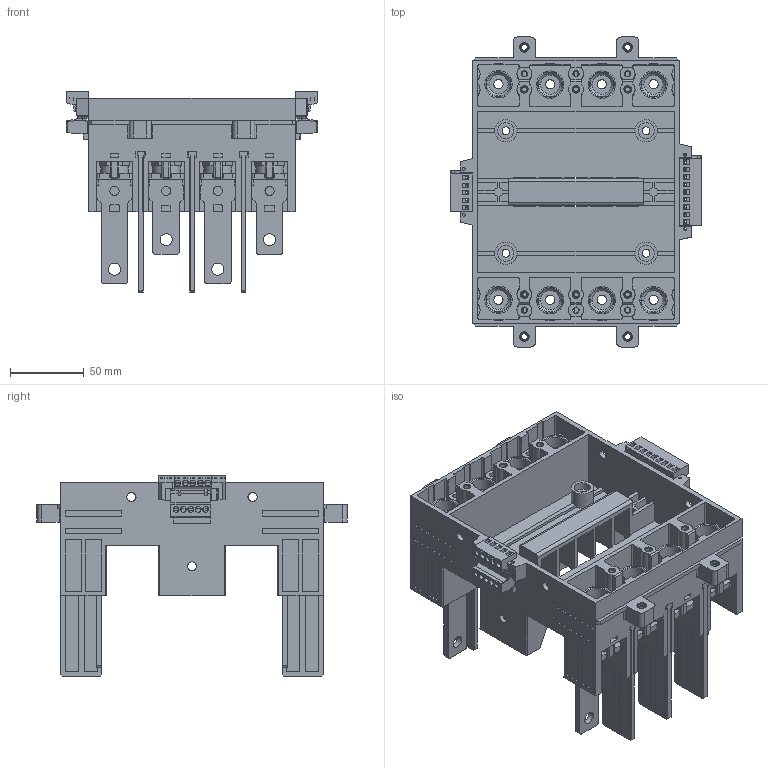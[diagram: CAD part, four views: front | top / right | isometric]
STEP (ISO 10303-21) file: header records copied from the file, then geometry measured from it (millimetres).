
FILE_DESCRIPTION (( 'STEP AP203' ), '1' );
FILE_NAME ('M5-250-4P-P1RH.STEP', '2024-11-05T02:29:00', ( 'A' ), ( '' ), 'SwSTEP 2.0', 'SolidWorks 2018', '' );
FILE_SCHEMA (( 'CONFIG_CONTROL_DESIGN' ));
Products named in the file (1): M5-250-4P-P1RH
Bounding box: 170 x 210 x 136 mm (x, y, z)
Surface area: 329711 mm2 (no closed solid volume)
Topology: 0 solids, 86 shells, 2601 faces, 8561 edges, 5921 vertices
Faces by surface type: plane 1787, cylinder 730, cone 84
Entity records: 93376 total; most frequent: CARTESIAN_POINT 17146, DIRECTION 15677, ORIENTED_EDGE 15187, EDGE_CURVE 8545, LINE 6565, VECTOR 6565, VERTEX_POINT 5921, AXIS2_PLACEMENT_3D 4556
